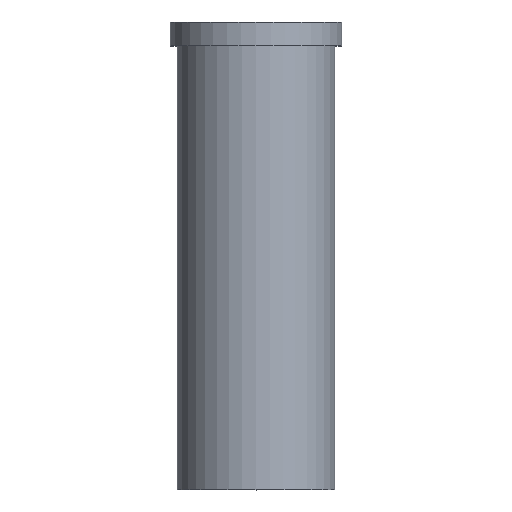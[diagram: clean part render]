
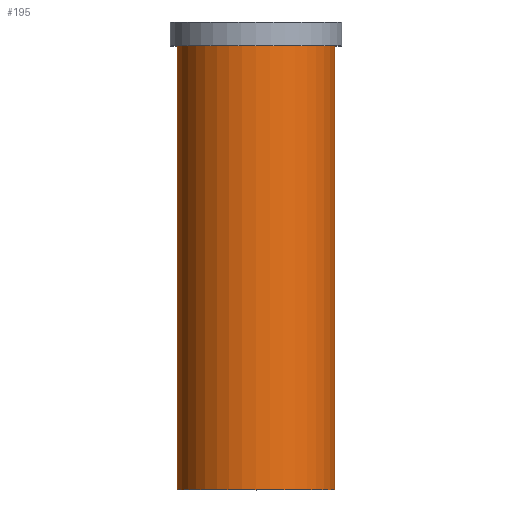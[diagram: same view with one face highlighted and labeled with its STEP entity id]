
A CAD part, top view. The second image highlights one B-rep face of the part: STEP entity #195.
In plain terms, the highlighted cylindrical face has radius 33 mm (diameter 66 mm), a full revolution.
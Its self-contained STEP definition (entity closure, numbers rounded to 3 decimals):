
#32=ORIENTED_EDGE('',*,*,#50,.T.);
#33=ORIENTED_EDGE('',*,*,#49,.F.);
#49=EDGE_CURVE('',#59,#59,#69,.T.);
#50=EDGE_CURVE('',#60,#60,#70,.T.);
#59=VERTEX_POINT('',#280);
#60=VERTEX_POINT('',#283);
#69=CIRCLE('',#213,33.);
#70=CIRCLE('',#215,33.);
#82=EDGE_LOOP('',(#32));
#83=EDGE_LOOP('',(#33));
#102=FACE_BOUND('',#82,.T.);
#103=FACE_BOUND('',#83,.T.);
#117=CYLINDRICAL_SURFACE('',#214,33.);
#195=ADVANCED_FACE('',(#102,#103),#117,.T.);
#213=AXIS2_PLACEMENT_3D('',#279,#241,#242);
#214=AXIS2_PLACEMENT_3D('',#281,#243,#244);
#215=AXIS2_PLACEMENT_3D('',#282,#245,#246);
#241=DIRECTION('',(0.,-1.,0.));
#242=DIRECTION('',(0.,0.,-1.));
#243=DIRECTION('',(0.,-1.,0.));
#244=DIRECTION('',(0.,0.,-1.));
#245=DIRECTION('',(0.,-1.,0.));
#246=DIRECTION('',(0.,0.,-1.));
#279=CARTESIAN_POINT('',(0.,0.,0.));
#280=CARTESIAN_POINT('',(0.,0.,-33.));
#281=CARTESIAN_POINT('',(0.,0.,0.));
#282=CARTESIAN_POINT('',(0.,186.,0.));
#283=CARTESIAN_POINT('',(0.,186.,-33.));
